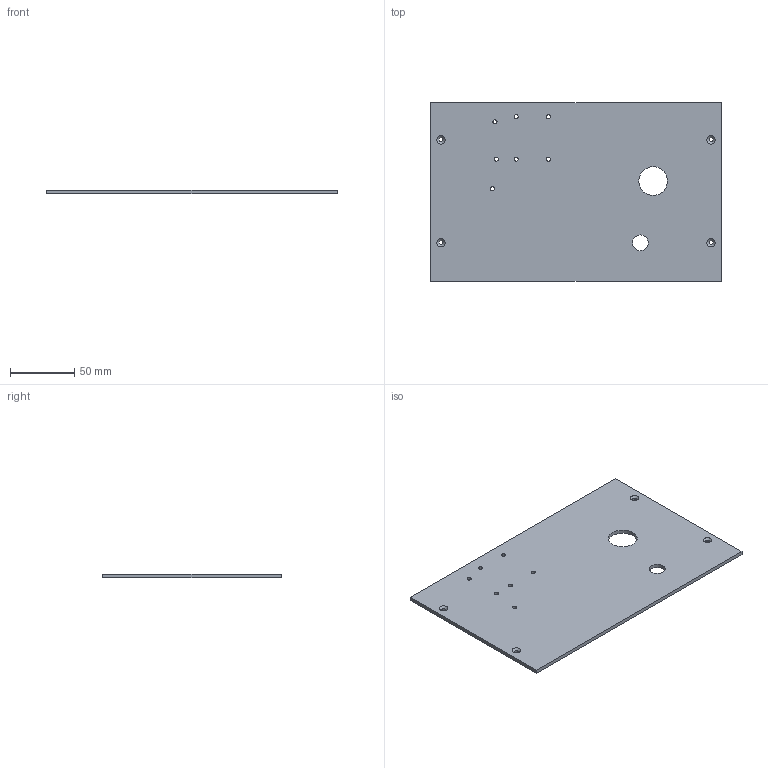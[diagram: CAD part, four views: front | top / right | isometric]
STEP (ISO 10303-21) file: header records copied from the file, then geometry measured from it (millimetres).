
FILE_DESCRIPTION(('Open CASCADE Model'),'2;1');
FILE_NAME('Open CASCADE Shape Model','2026-10-18T23:46:25',('Author'),( 'Open CASCADE'),'Open CASCADE STEP processor 7.9','Open CASCADE 7.9' ,'Unknown');
FILE_SCHEMA(('AUTOMOTIVE_DESIGN { 1 0 10303 214 1 1 1 1 }'));
Length unit declared in the file: millimetre
Products named in the file (1): Open CASCADE STEP translator 7.9 4
Bounding box: 226 x 139 x 3 mm (x, y, z)
Volume: 92374.8 mm3; surface area: 64456 mm2
Topology: 1 solids, 1 shells, 23 faces, 59 edges, 38 vertices
Faces by surface type: cylinder 13, plane 6, cone 4
Full cylindrical faces by diameter (mm): 3.2 x7, 3.4 x4, 12.2 x1, 22.3 x1
Entity records: 1540 total; most frequent: DIRECTION 255, CARTESIAN_POINT 239, LINE 121, VECTOR 121, ORIENTED_EDGE 118, PCURVE 118, DEFINITIONAL_REPRESENTATION 118, EDGE_CURVE 59
